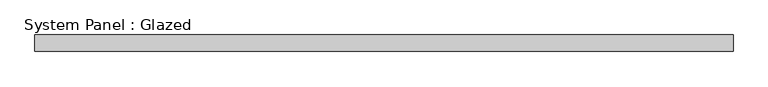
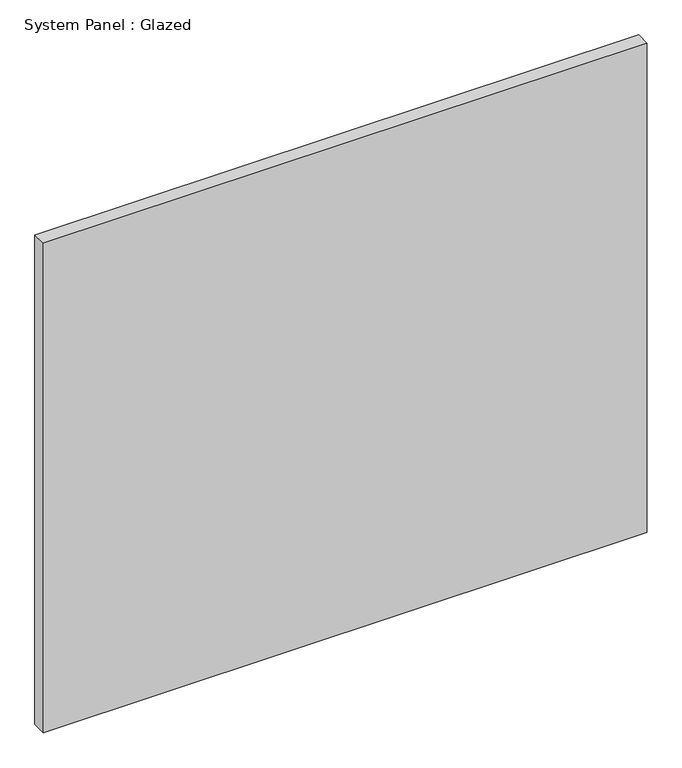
"""IFC4 building model written with IfcOpenShell, lengths in millimetres: plate geometry, System Panel : Glazed."""

import ifcopenshell
import ifcopenshell.guid

model = None  # the IFC model being written
_history = None  # IfcOwnerHistory: only IFC2X3 demands one
_inside = {}  # id of a spatial element -> (the spatial element, [elements in it])
_under = {}  # id of a project, library or spatial element -> (it, [spatial elements below it])
_declared = {}  # id of a project -> (the project, [libraries it declares])
_typed = {}  # id of a type object -> (the type object, [elements of that type])
_made_of = {}  # id of a material, layer set ... -> (it, [elements and type objects made of it])


def new_model(schema):
    """Start an empty IFC model of exactly this schema.

    Asked for "IFC4X3", IfcOpenShell would pick the latest addendum, in which some entities
    have other attributes; the version numbers below select the first issue.
    IFC2X3 requires an IfcOwnerHistory on every rooted entity: one is made here for all.
    """
    global model, _history
    if schema == "IFC4X3":
        model = ifcopenshell.file(schema_version=(4, 3, 0, 0))
    else:
        model = ifcopenshell.file(schema=schema)
    _inside.clear()
    _under.clear()
    _declared.clear()
    _typed.clear()
    _made_of.clear()
    _history = None
    if model.schema == "IFC2X3":
        org = make("IfcOrganization", Name="unknown")
        user = make(
            "IfcPersonAndOrganization",
            ThePerson=make("IfcPerson", FamilyName="unknown"),
            TheOrganization=org,
        )
        app = make(
            "IfcApplication",
            ApplicationDeveloper=org,
            Version="unknown",
            ApplicationFullName="unknown",
            ApplicationIdentifier="unknown",
        )
        _history = make(
            "IfcOwnerHistory",
            OwningUser=user,
            OwningApplication=app,
            ChangeAction="ADDED",
            CreationDate=0,
        )
    return model


def make(cls, **values):
    """One entity of the class cls with the attributes given. An attribute that is None is left unset."""
    return model.create_entity(
        cls, **{name: value for name, value in values.items() if value is not None}
    )


def rooted(cls, **values):
    """An entity with a GlobalId (a new one), such as an element, a storey or a relation."""
    return make(cls, GlobalId=ifcopenshell.guid.new(), OwnerHistory=_history, **values)


def si_unit(unit_type, name, prefix=None):
    """IfcSIUnit, for example si_unit("LENGTHUNIT", "METRE", prefix="MILLI")."""
    return make("IfcSIUnit", UnitType=unit_type, Prefix=prefix, Name=name)


def assignment(units):
    """IfcUnitAssignment: the units of a project."""
    return None if units is None else make("IfcUnitAssignment", Units=units)


def point(xyz):
    """IfcCartesianPoint."""
    return None if xyz is None else make("IfcCartesianPoint", Coordinates=xyz)


def direction(xyz):
    """IfcDirection."""
    return None if xyz is None else make("IfcDirection", DirectionRatios=xyz)


def frame(location, z_axis=None, x_axis=None):
    """IfcAxis2Placement3D, a coordinate frame: its origin and axes. An axis left out is left unset."""
    return make(
        "IfcAxis2Placement3D",
        Location=point(location),
        Axis=direction(z_axis),
        RefDirection=direction(x_axis),
    )


def origin():
    """The frame at (0, 0, 0) with its axes left unset."""
    return frame((0.0, 0.0, 0.0))


def origin_with_axes():
    """The frame at (0, 0, 0) with the z axis (0, 0, 1) and the x axis (1, 0, 0) written out."""
    return frame((0.0, 0.0, 0.0), z_axis=(0.0, 0.0, 1.0), x_axis=(1.0, 0.0, 0.0))


def place(relative_to, where):
    """IfcLocalPlacement: puts the frame where relative to a parent placement (None: the world)."""
    return make(
        "IfcLocalPlacement", PlacementRelTo=relative_to, RelativePlacement=where
    )


def context(
    kind, dimensions, precision=None, world=None, true_north=None, identifier=None
):
    """IfcGeometricRepresentationContext, for example the 3D "Model" context."""
    return make(
        "IfcGeometricRepresentationContext",
        ContextIdentifier=identifier,
        ContextType=kind,
        CoordinateSpaceDimension=dimensions,
        Precision=precision,
        WorldCoordinateSystem=world,
        TrueNorth=true_north,
    )


def project(units=None, contexts=None):
    """IfcProject with its units and contexts."""
    return rooted(
        "IfcProject",
        Name="project",
        RepresentationContexts=contexts,
        UnitsInContext=assignment(units),
    )


def spatial(cls, under=None, at=None, **own):
    """A site, building, storey or space (cls), placed at a placement, below another one or the project."""
    s = rooted(cls, ObjectPlacement=at, **own)
    if under is not None:
        _under.setdefault(under.id(), (under, []))[1].append(s)
    return s


def polyline(points):
    """IfcPolyline through the points."""
    return make("IfcPolyline", Points=[point(p) for p in points])


def outline(outer, holes=None, kind="AREA"):
    """IfcArbitraryClosedProfileDef: a profile drawn as a closed curve; with holes, ...WithVoids."""
    if holes is None:
        return make("IfcArbitraryClosedProfileDef", ProfileType=kind, OuterCurve=outer)
    return make(
        "IfcArbitraryProfileDefWithVoids",
        ProfileType=kind,
        OuterCurve=outer,
        InnerCurves=holes,
    )


def extrude(swept, where, along, depth):
    """IfcExtrudedAreaSolid: the profile swept, set in the frame where, extruded along a direction by depth."""
    return make(
        "IfcExtrudedAreaSolid",
        SweptArea=swept,
        Position=where,
        ExtrudedDirection=direction(along),
        Depth=depth,
    )


def shape(context_of_items, identifier, shape_type, items):
    """IfcShapeRepresentation: the items that make up one representation, for example the "Body"."""
    return make(
        "IfcShapeRepresentation",
        ContextOfItems=context_of_items,
        RepresentationIdentifier=identifier,
        RepresentationType=shape_type,
        Items=items,
    )


def source(mapping_origin, context_of_items, identifier, shape_type, items):
    """IfcRepresentationMap: a shape defined once, which mapped items show again and again."""
    return make(
        "IfcRepresentationMap",
        MappingOrigin=mapping_origin,
        MappedRepresentation=shape(context_of_items, identifier, shape_type, items),
    )


def transform(
    local_origin,
    x_axis=None,
    y_axis=None,
    z_axis=None,
    scale=None,
    scale2=None,
    scale3=None,
    uniform=True,
):
    """IfcCartesianTransformationOperator3D, or its non-uniform kind. x_axis, y_axis, z_axis: its Axis1, 2, 3."""
    if uniform:
        return make(
            "IfcCartesianTransformationOperator3D",
            Axis1=direction(x_axis),
            Axis2=direction(y_axis),
            LocalOrigin=point(local_origin),
            Scale=scale,
            Axis3=direction(z_axis),
        )
    return make(
        "IfcCartesianTransformationOperator3DnonUniform",
        Axis1=direction(x_axis),
        Axis2=direction(y_axis),
        LocalOrigin=point(local_origin),
        Scale=scale,
        Axis3=direction(z_axis),
        Scale2=scale2,
        Scale3=scale3,
    )


def mapped(mapping_source, mapping_target):
    """IfcMappedItem: shows the shape of a source again, moved by a transform."""
    return make(
        "IfcMappedItem", MappingSource=mapping_source, MappingTarget=mapping_target
    )


def made_of(thing, what):
    """Note that an element or type object is made of a material, layer set ...; save() writes the relation."""
    if what is not None:
        _made_of.setdefault(what.id(), (what, []))[1].append(thing)
    return thing


def element(
    cls,
    number,
    at=None,
    inside=None,
    cuts=None,
    type_object=None,
    material=None,
    context=None,
    identifier="Body",
    shape_type=None,
    held_by="IfcProductDefinitionShape",
    body=None,
    shapes=None,
    **own,
):
    """One element of the class cls, such as IfcWall. Its Tag is "e" and its number.

    at: its placement. inside: the storey or other place that contains it. cuts: it is an
    opening in that element (IfcRelVoidsElement). A single representation is given by context,
    identifier, shape_type and body (its items); several are given by shapes. held_by: the class
    of the entity that holds the representations. save() writes the other relations.
    """
    e = rooted(cls, Tag="e%d" % number, ObjectPlacement=at, **own)
    if body is not None:
        shapes = [shape(context, identifier, shape_type, body)]
    if shapes is not None:
        e.Representation = make(held_by, Representations=shapes)
    if inside is not None:
        _inside.setdefault(inside.id(), (inside, []))[1].append(e)
    if cuts is not None:
        rooted(
            "IfcRelVoidsElement", RelatingBuildingElement=cuts, RelatedOpeningElement=e
        )
    if type_object is not None:
        _typed.setdefault(type_object.id(), (type_object, []))[1].append(e)
    return made_of(e, material)


def aggregate(whole, parts):
    """IfcRelAggregates: a whole, such as a stair, and the parts it consists of."""
    return rooted("IfcRelAggregates", RelatingObject=whole, RelatedObjects=parts)


def save(model, path):
    """Write the relations noted so far, then the file.

    IfcRelAggregates (storeys below a building ...), IfcRelContainedInSpatialStructure (elements
    in a storey), IfcRelDefinesByType, IfcRelAssociatesMaterial and IfcRelDeclares: one each for
    every whole, place, type object, material and project.
    """
    for whole, parts in _under.values():
        aggregate(whole, parts)
    for where, things in _inside.values():
        rooted(
            "IfcRelContainedInSpatialStructure",
            RelatedElements=things,
            RelatingStructure=where,
        )
    for kind, things in _typed.values():
        rooted("IfcRelDefinesByType", RelatedObjects=things, RelatingType=kind)
    for what, things in _made_of.values():
        rooted("IfcRelAssociatesMaterial", RelatedObjects=things, RelatingMaterial=what)
    for by, libraries in _declared.values():
        rooted("IfcRelDeclares", RelatingContext=by, RelatedDefinitions=libraries)
    model.write(path)


def system_panel_glazed_3d85dcf9(model_context):
    return source(origin(), model_context, "Body", "SweptSolid", [
        extrude(outline(polyline([(526.4482856, 24.5), (-526.4482856, 24.5), (-526.4482856, 49.5), (526.4482856, 49.5), (526.4482856, 24.5)])), origin_with_axes(), (0.0, 0.0, 1.0), 902.3119055),
    ])


if __name__ == "__main__":
    model = new_model("IFC4")
    model_context = context("Model", 3, world=origin())
    ifc_project = project(units=[si_unit("LENGTHUNIT", "METRE", prefix="MILLI")], contexts=[model_context])
    site = spatial("IfcSite", under=ifc_project)
    building = spatial("IfcBuilding", under=site)
    placement = place(None, origin())
    system_panel_glazed_shape = system_panel_glazed_3d85dcf9(model_context)
    element("IfcPlate", 1, ObjectType="System Panel : Glazed", at=placement, inside=building, context=model_context, shape_type="MappedRepresentation", body=[
        mapped(system_panel_glazed_shape, transform((0.0, 0.0, 0.0), x_axis=(1.0, 0.0, 0.0), y_axis=(0.0, 1.0, 0.0), z_axis=(0.0, 0.0, 1.0))),
    ])
    save(model, "model.ifc")
